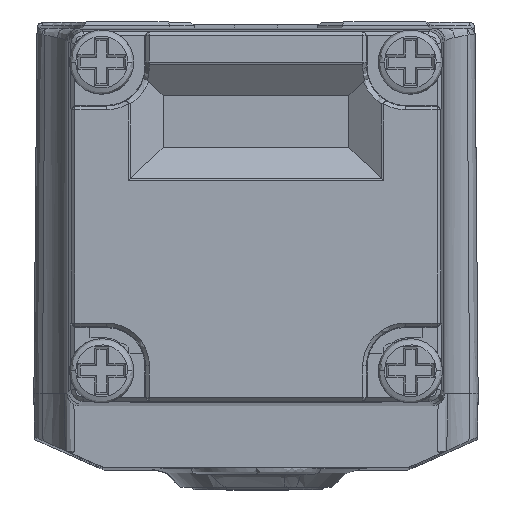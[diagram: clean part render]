
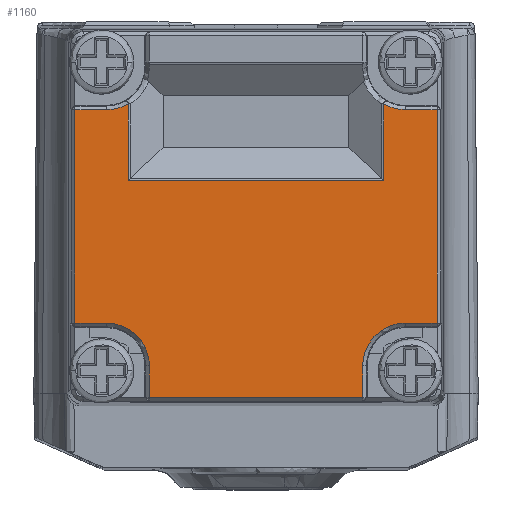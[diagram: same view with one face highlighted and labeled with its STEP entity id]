
A CAD part, top view. The second image highlights one B-rep face of the part: STEP entity #1160.
In plain terms, the highlighted planar face has unit normal (0, 0, 1) as drawn and (0, 1, 0) by its records, which use the part's own axes.
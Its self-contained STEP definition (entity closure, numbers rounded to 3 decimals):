
#1160=ADVANCED_FACE('',(#3245),#33436,.T.);
#3245=FACE_OUTER_BOUND('',#5391,.T.);
#5391=EDGE_LOOP('',(#11158,#11159,#11160,#11161,#11162,#11163,#11164,#11165,
#11166,#11167,#11168,#11169,#11170,#11171,#11172,#11173));
#11158=ORIENTED_EDGE('',*,*,#19605,.F.);
#11159=ORIENTED_EDGE('',*,*,#20140,.F.);
#11160=ORIENTED_EDGE('',*,*,#20136,.F.);
#11161=ORIENTED_EDGE('',*,*,#20101,.F.);
#11162=ORIENTED_EDGE('',*,*,#20137,.T.);
#11163=ORIENTED_EDGE('',*,*,#20095,.F.);
#11164=ORIENTED_EDGE('',*,*,#20089,.F.);
#11165=ORIENTED_EDGE('',*,*,#20087,.F.);
#11166=ORIENTED_EDGE('',*,*,#20078,.F.);
#11167=ORIENTED_EDGE('',*,*,#20076,.F.);
#11168=ORIENTED_EDGE('',*,*,#20074,.F.);
#11169=ORIENTED_EDGE('',*,*,#20072,.F.);
#11170=ORIENTED_EDGE('',*,*,#20068,.F.);
#11171=ORIENTED_EDGE('',*,*,#20135,.F.);
#11172=ORIENTED_EDGE('',*,*,#20186,.T.);
#11173=ORIENTED_EDGE('',*,*,#20138,.T.);
#19605=EDGE_CURVE('',#30226,#30227,#25683,.T.);
#20068=EDGE_CURVE('',#30547,#30548,#26064,.T.);
#20072=EDGE_CURVE('',#30548,#30549,#26065,.T.);
#20074=EDGE_CURVE('',#30549,#30550,#24032,.T.);
#20076=EDGE_CURVE('',#30550,#30551,#26066,.T.);
#20078=EDGE_CURVE('',#30551,#30552,#26067,.T.);
#20087=EDGE_CURVE('',#30552,#30555,#26073,.T.);
#20089=EDGE_CURVE('',#30555,#30556,#24039,.T.);
#20095=EDGE_CURVE('',#30556,#30559,#26076,.T.);
#20101=EDGE_CURVE('',#30566,#30564,#26078,.T.);
#20135=EDGE_CURVE('',#30576,#30547,#26104,.T.);
#20136=EDGE_CURVE('',#30564,#30560,#24055,.T.);
#20137=EDGE_CURVE('',#30566,#30559,#26105,.T.);
#20138=EDGE_CURVE('',#30577,#30227,#26106,.T.);
#20140=EDGE_CURVE('',#30560,#30226,#26107,.T.);
#20186=EDGE_CURVE('',#30576,#30577,#24074,.T.);
#24032=(
BOUNDED_CURVE()
B_SPLINE_CURVE(2,(#57740,#57741,#57742),.UNSPECIFIED.,.F.,.F.)
B_SPLINE_CURVE_WITH_KNOTS((3,3),(0.,5.434),.UNSPECIFIED.)
CURVE()
GEOMETRIC_REPRESENTATION_ITEM()
RATIONAL_B_SPLINE_CURVE((1.,0.707,1.))
REPRESENTATION_ITEM('')
);
#24039=(
BOUNDED_CURVE()
B_SPLINE_CURVE(2,(#57796,#57797,#57798),.UNSPECIFIED.,.F.,.F.)
B_SPLINE_CURVE_WITH_KNOTS((3,3),(0.,5.434),.UNSPECIFIED.)
CURVE()
GEOMETRIC_REPRESENTATION_ITEM()
RATIONAL_B_SPLINE_CURVE((1.,0.707,1.))
REPRESENTATION_ITEM('')
);
#24055=(
BOUNDED_CURVE()
B_SPLINE_CURVE(2,(#57957,#57958,#57959),.UNSPECIFIED.,.F.,.F.)
B_SPLINE_CURVE_WITH_KNOTS((3,3),(-1.837,0.),.UNSPECIFIED.)
CURVE()
GEOMETRIC_REPRESENTATION_ITEM()
RATIONAL_B_SPLINE_CURVE((1.,0.965,1.))
REPRESENTATION_ITEM('')
);
#24074=(
BOUNDED_CURVE()
B_SPLINE_CURVE(2,(#58222,#58223,#58224),.UNSPECIFIED.,.F.,.F.)
B_SPLINE_CURVE_WITH_KNOTS((3,3),(-1.837,0.),.UNSPECIFIED.)
CURVE()
GEOMETRIC_REPRESENTATION_ITEM()
RATIONAL_B_SPLINE_CURVE((1.,0.965,1.))
REPRESENTATION_ITEM('')
);
#25683=B_SPLINE_CURVE_WITH_KNOTS('',1,(#56247,#56248),.UNSPECIFIED.,.F.,
 .F.,(2,2),(0.,20.697),.UNSPECIFIED.);
#26064=B_SPLINE_CURVE_WITH_KNOTS('',1,(#57724,#57725),.UNSPECIFIED.,.F.,
 .F.,(2,2),(0.,17.281),.UNSPECIFIED.);
#26065=B_SPLINE_CURVE_WITH_KNOTS('',1,(#57735,#57736),.UNSPECIFIED.,.F.,
 .F.,(2,2),(0.,2.569),.UNSPECIFIED.);
#26066=B_SPLINE_CURVE_WITH_KNOTS('',1,(#57746,#57747),.UNSPECIFIED.,.F.,
 .F.,(2,2),(0.,2.569),.UNSPECIFIED.);
#26067=B_SPLINE_CURVE_WITH_KNOTS('',1,(#57751,#57752),.UNSPECIFIED.,.F.,
 .F.,(2,2),(0.,17.281),.UNSPECIFIED.);
#26073=B_SPLINE_CURVE_WITH_KNOTS('',1,(#57791,#57792),.UNSPECIFIED.,.F.,
 .F.,(2,2),(0.,2.569),.UNSPECIFIED.);
#26076=B_SPLINE_CURVE_WITH_KNOTS('',1,(#57814,#57815),.UNSPECIFIED.,.F.,
 .F.,(2,2),(0.,2.569),.UNSPECIFIED.);
#26078=B_SPLINE_CURVE_WITH_KNOTS('',1,(#57830,#57831),.UNSPECIFIED.,.F.,
 .F.,(2,2),(0.,2.569),.UNSPECIFIED.);
#26104=B_SPLINE_CURVE_WITH_KNOTS('',1,(#57955,#57956),.UNSPECIFIED.,.F.,
 .F.,(2,2),(0.,2.569),.UNSPECIFIED.);
#26105=B_SPLINE_CURVE_WITH_KNOTS('',1,(#57960,#57961),.UNSPECIFIED.,.F.,
 .F.,(2,2),(0.,17.281),.UNSPECIFIED.);
#26106=B_SPLINE_CURVE_WITH_KNOTS('',1,(#57962,#57963),.UNSPECIFIED.,.F.,
 .F.,(2,2),(0.,6.22),.UNSPECIFIED.);
#26107=B_SPLINE_CURVE_WITH_KNOTS('',1,(#57967,#57968),.UNSPECIFIED.,.F.,
 .F.,(2,2),(0.,6.22),.UNSPECIFIED.);
#30226=VERTEX_POINT('',#55755);
#30227=VERTEX_POINT('',#55756);
#30547=VERTEX_POINT('',#56076);
#30548=VERTEX_POINT('',#56077);
#30549=VERTEX_POINT('',#56078);
#30550=VERTEX_POINT('',#56079);
#30551=VERTEX_POINT('',#56080);
#30552=VERTEX_POINT('',#56081);
#30555=VERTEX_POINT('',#56084);
#30556=VERTEX_POINT('',#56085);
#30559=VERTEX_POINT('',#56088);
#30560=VERTEX_POINT('',#56089);
#30564=VERTEX_POINT('',#56093);
#30566=VERTEX_POINT('',#56095);
#30576=VERTEX_POINT('',#56105);
#30577=VERTEX_POINT('',#56106);
#33436=PLANE('',#36307);
#36307=AXIS2_PLACEMENT_3D('',#55270,#38128,$);
#38128=DIRECTION('',(0.,1.,0.));
#55270=CARTESIAN_POINT('',(282.397,62.353,32.402));
#55755=CARTESIAN_POINT('',(289.652,62.353,12.457));
#55756=CARTESIAN_POINT('',(310.348,62.353,12.457));
#56076=CARTESIAN_POINT('',(314.669,62.353,6.714));
#56077=CARTESIAN_POINT('',(314.669,62.353,23.995));
#56078=CARTESIAN_POINT('',(312.1,62.353,23.995));
#56079=CARTESIAN_POINT('',(308.64,62.353,27.454));
#56080=CARTESIAN_POINT('',(308.64,62.353,30.024));
#56081=CARTESIAN_POINT('',(291.36,62.353,30.024));
#56084=CARTESIAN_POINT('',(291.36,62.353,27.454));
#56085=CARTESIAN_POINT('',(287.9,62.353,23.995));
#56088=CARTESIAN_POINT('',(285.331,62.353,23.995));
#56089=CARTESIAN_POINT('',(289.652,62.353,6.238));
#56093=CARTESIAN_POINT('',(287.9,62.353,6.714));
#56095=CARTESIAN_POINT('',(285.331,62.353,6.714));
#56105=CARTESIAN_POINT('',(312.1,62.353,6.714));
#56106=CARTESIAN_POINT('',(310.348,62.353,6.238));
#56247=CARTESIAN_POINT('',(289.652,62.353,12.457));
#56248=CARTESIAN_POINT('',(310.348,62.353,12.457));
#57724=CARTESIAN_POINT('',(314.669,62.353,6.714));
#57725=CARTESIAN_POINT('',(314.669,62.353,23.995));
#57735=CARTESIAN_POINT('',(314.669,62.353,23.995));
#57736=CARTESIAN_POINT('',(312.1,62.353,23.995));
#57740=CARTESIAN_POINT('',(312.1,62.353,23.995));
#57741=CARTESIAN_POINT('',(308.64,62.353,23.995));
#57742=CARTESIAN_POINT('',(308.64,62.353,27.454));
#57746=CARTESIAN_POINT('',(308.64,62.353,27.454));
#57747=CARTESIAN_POINT('',(308.64,62.353,30.024));
#57751=CARTESIAN_POINT('',(308.64,62.353,30.024));
#57752=CARTESIAN_POINT('',(291.36,62.353,30.024));
#57791=CARTESIAN_POINT('',(291.36,62.353,30.024));
#57792=CARTESIAN_POINT('',(291.36,62.353,27.454));
#57796=CARTESIAN_POINT('',(291.36,62.353,27.454));
#57797=CARTESIAN_POINT('',(291.36,62.353,23.995));
#57798=CARTESIAN_POINT('',(287.9,62.353,23.995));
#57814=CARTESIAN_POINT('',(287.9,62.353,23.995));
#57815=CARTESIAN_POINT('',(285.331,62.353,23.995));
#57830=CARTESIAN_POINT('',(285.331,62.353,6.714));
#57831=CARTESIAN_POINT('',(287.9,62.353,6.714));
#57955=CARTESIAN_POINT('',(312.1,62.353,6.714));
#57956=CARTESIAN_POINT('',(314.669,62.353,6.714));
#57957=CARTESIAN_POINT('',(287.9,62.353,6.714));
#57958=CARTESIAN_POINT('',(288.84,62.353,6.714));
#57959=CARTESIAN_POINT('',(289.652,62.353,6.238));
#57960=CARTESIAN_POINT('',(285.331,62.353,6.714));
#57961=CARTESIAN_POINT('',(285.331,62.353,23.995));
#57962=CARTESIAN_POINT('',(310.348,62.353,6.238));
#57963=CARTESIAN_POINT('',(310.348,62.353,12.457));
#57967=CARTESIAN_POINT('',(289.652,62.353,6.238));
#57968=CARTESIAN_POINT('',(289.652,62.353,12.457));
#58222=CARTESIAN_POINT('',(312.1,62.353,6.714));
#58223=CARTESIAN_POINT('',(311.16,62.353,6.714));
#58224=CARTESIAN_POINT('',(310.348,62.353,6.238));
